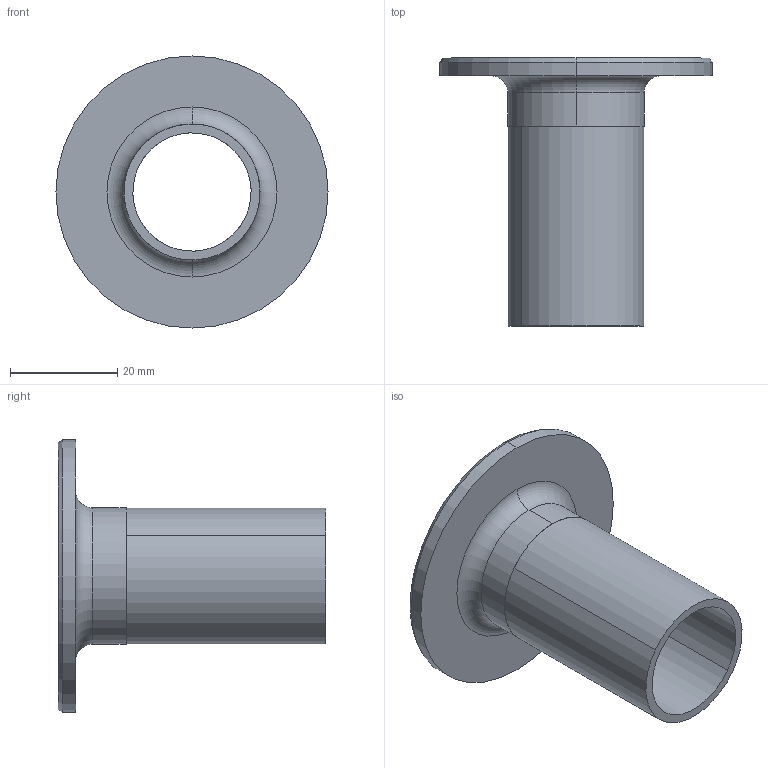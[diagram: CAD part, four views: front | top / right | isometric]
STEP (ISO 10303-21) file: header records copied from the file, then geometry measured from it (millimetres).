
FILE_DESCRIPTION (( 'STEP AP203' ), '1' );
FILE_NAME ('E14WA1.0.STEP', '2018-05-04T18:01:01', ( 'vneprd' ), ( 'Microsoft' ), 'SwSTEP 2.0', 'SolidWorks 2014', '' );
FILE_SCHEMA (( 'CONFIG_CONTROL_DESIGN' ));
Length unit declared in the file: inch
Products named in the file (3): V14WAB1.0; TUBE1.0x1.25; E14WA1.0
Assembly tree (2 placements, depth 2):
  E14WA1.0
    V14WAB1.0
    TUBE1.0x1.25
Bounding box: 50.8 x 50.01 x 50.8 mm (x, y, z)
Volume: 10722.4 mm3; surface area: 12654.6 mm2
Topology: 2 solids, 2 shells, 79 faces, 158 edges, 84 vertices
Faces by surface type: cone 62, cylinder 10, plane 5, torus 2
Entity records: 2325 total; most frequent: DIRECTION 412, CARTESIAN_POINT 326, ORIENTED_EDGE 316, AXIS2_PLACEMENT_3D 170, EDGE_CURVE 158, CIRCLE 86, VERTEX_POINT 84, EDGE_LOOP 84
